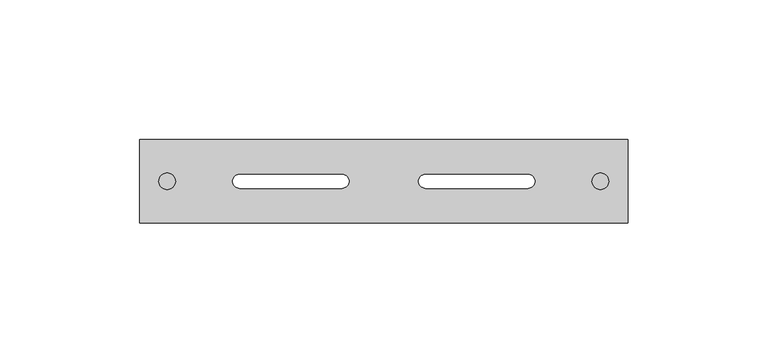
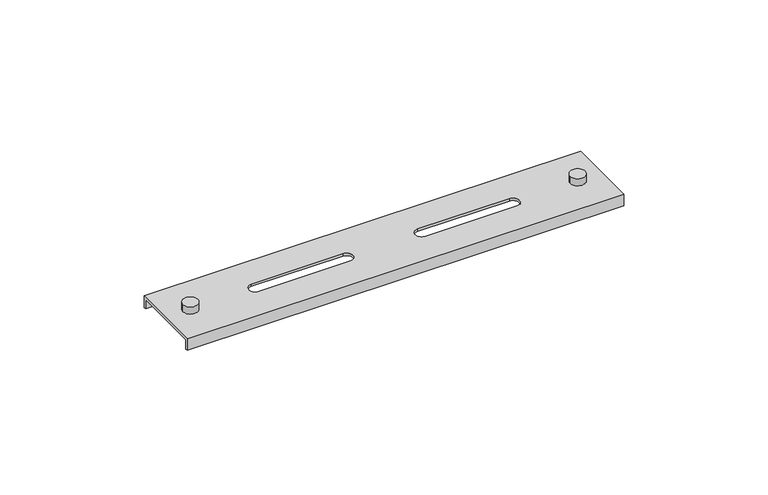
"""IFC4 building model written with IfcOpenShell, lengths in millimetres: cable carrier fitting geometry, CCT_Hyperline_FBTR_BAR_Подвес_для_оптического_лотка : Подвес для оптического лотка."""

from ifc_helpers import new_model, si_unit, point, frame, frame_2d, origin, place, context, project, spatial, polyline, circle_curve, trimmed, segment, composite_curve, outline, extrude, source, transform, mapped, element, save
from ifc_brep_helpers import plane_surface, revolved_surface, advanced_brep


def cable_carrier_fitting_2b42971a(model_context):
    return source(origin(), model_context, "Body", "SolidModel", [
        extrude(outline(composite_curve([segment(trimmed(circle_curve(frame_2d((-77.6286976, 0.0)), 3.0), [point((-74.6286976, 0.0))], [point((-80.6286976, 0.0))], False, "CARTESIAN"), True, "CONTINUOUS"), segment(trimmed(circle_curve(frame_2d((-77.6286976, 0.0)), 3.0), [point((-80.6286976, 0.0))], [point((-74.6286976, 0.0))], False, "CARTESIAN"), True, "CONTINUOUS")], self_intersect=False)), frame((0.0, 0.0, 100.0), z_axis=(0.0, 0.0, 1.0), x_axis=(1.0, 0.0, 0.0)), (0.0, 0.0, 1.0), 3.0),
        extrude(outline(composite_curve([segment(trimmed(circle_curve(frame_2d((77.6286976, 0.0)), 3.0), [point((74.6286976, 0.0))], [point((80.6286976, 0.0))], False, "CARTESIAN"), True, "CONTINUOUS"), segment(trimmed(circle_curve(frame_2d((77.6286976, 0.0)), 3.0), [point((80.6286976, 0.0))], [point((74.6286976, 0.0))], False, "CARTESIAN"), True, "CONTINUOUS")], self_intersect=False)), frame((0.0, 0.0, 100.0), z_axis=(0.0, 0.0, 1.0), x_axis=(1.0, 0.0, 0.0)), (0.0, 0.0, 1.0), 3.0),
        advanced_brep(
        [(-87.5, -15.0, 100.0), (-87.5, 15.0, 100.0), (-87.5, 15.0, 95.0), (-87.5, 14.0, 95.0), (-87.5, 14.0, 99.0), (-87.5, -14.0, 99.0), (-87.5, -14.0, 95.0), (-87.5, -15.0, 95.0), (87.5, -15.0, 100.0), (87.5, 15.0, 100.0), (-51.6666667, 2.5, 100.0), (-15.0, 2.5, 100.0), (-15.0, -2.5, 100.0), (-51.6666667, -2.5, 100.0), (15.0, 2.5, 100.0), (51.6666667, 2.5, 100.0), (51.6666667, -2.5, 100.0), (15.0, -2.5, 100.0), (87.5, 14.0, 99.0), (87.5, -14.0, 99.0), (-15.0, 2.5, 99.0), (-51.6666667, 2.5, 99.0), (-51.6666667, -2.5, 99.0), (-15.0, -2.5, 99.0), (51.6666667, 2.5, 99.0), (15.0, 2.5, 99.0), (15.0, -2.5, 99.0), (51.6666667, -2.5, 99.0), (87.5, -14.0, 95.0), (87.5, -15.0, 95.0), (87.5, 14.0, 95.0), (87.5, 15.0, 95.0)],
        [
            (0, 1),
            (1, 2),
            (2, 3),
            (3, 4),
            (4, 5),
            (5, 6),
            (6, 7),
            (7, 0),
            (0, 8),
            (8, 9),
            (9, 1),
            (10, 11),
            (11, 12, circle_curve(frame((-15.0, 0.0, 100.0), z_axis=(0.0, 0.0, -1.0), x_axis=(1.0, 0.0, 0.0)), 2.5)),
            (12, 13),
            (13, 10, circle_curve(frame((-51.6666667, 0.0, 100.0), z_axis=(0.0, 0.0, -1.0), x_axis=(1.0, 0.0, 0.0)), 2.5)),
            (14, 15),
            (15, 16, circle_curve(frame((51.6666667, 0.0, 100.0), z_axis=(0.0, 0.0, -1.0), x_axis=(1.0, 0.0, 0.0)), 2.5)),
            (16, 17),
            (17, 14, circle_curve(frame((15.0, 0.0, 100.0), z_axis=(0.0, 0.0, -1.0), x_axis=(1.0, 0.0, 0.0)), 2.5)),
            (4, 18),
            (18, 19),
            (19, 5),
            (20, 21),
            (21, 22, circle_curve(frame((-51.6666667, 0.0, 99.0), z_axis=(0.0, 0.0, 1.0), x_axis=(1.0, 0.0, 0.0)), 2.5)),
            (22, 23),
            (23, 20, circle_curve(frame((-15.0, 0.0, 99.0), z_axis=(0.0, 0.0, 1.0), x_axis=(1.0, 0.0, 0.0)), 2.5)),
            (24, 25),
            (25, 26, circle_curve(frame((15.0, 0.0, 99.0), z_axis=(0.0, 0.0, 1.0), x_axis=(1.0, 0.0, 0.0)), 2.5)),
            (26, 27),
            (27, 24, circle_curve(frame((51.6666667, 0.0, 99.0), z_axis=(0.0, 0.0, 1.0), x_axis=(1.0, 0.0, 0.0)), 2.5)),
            (19, 28),
            (28, 6),
            (28, 29),
            (29, 7),
            (29, 8),
            (18, 30),
            (30, 31),
            (31, 9),
            (31, 2),
            (30, 3),
            (10, 21),
            (20, 11),
            (13, 22),
            (12, 23),
            (14, 25),
            (24, 15),
            (17, 26),
            (16, 27),
        ],
        [
            plane_surface(frame((-87.5, -60.0, 24.0), z_axis=(-1.0, 0.0, 0.0), x_axis=(0.0, 0.0, 1.0))),
            plane_surface(frame((-87.5, -15.0, 100.0), z_axis=(0.0, 0.0, 1.0), x_axis=(1.0, 0.0, 0.0))),
            plane_surface(frame((-87.5, 14.0, 99.0), z_axis=(0.0, 0.0, -1.0), x_axis=(1.0, 0.0, 0.0))),
            plane_surface(frame((-87.5, -14.0, 99.0), z_axis=(0.0, 1.0, 0.0), x_axis=(1.0, 0.0, 0.0))),
            plane_surface(frame((-87.5, -14.0, 95.0), z_axis=(0.0, 0.0, -1.0), x_axis=(1.0, 0.0, 0.0))),
            plane_surface(frame((-87.5, -15.0, 95.0), z_axis=(0.0, -1.0, 0.0), x_axis=(1.0, 0.0, 0.0))),
            plane_surface(frame((87.5, -60.0, 24.0), z_axis=(1.0, 0.0, 0.0), x_axis=(0.0, 0.0, 1.0))),
            plane_surface(frame((-87.5, 15.0, 100.0), z_axis=(0.0, 1.0, 0.0), x_axis=(1.0, 0.0, 0.0))),
            plane_surface(frame((-87.5, 15.0, 95.0), z_axis=(0.0, 0.0, -1.0), x_axis=(1.0, 0.0, 0.0))),
            plane_surface(frame((-87.5, 14.0, 95.0), z_axis=(0.0, -1.0, 0.0), x_axis=(1.0, 0.0, 0.0))),
            plane_surface(frame((-15.0, 2.5, 100.0), z_axis=(0.0, -1.0, 0.0), x_axis=(0.0, 0.0, -1.0))),
            revolved_surface(polyline([(-49.1666667, 0.0, 100.0), (-49.1666667, 0.0, 99.0)]), (-51.6666667, 0.0, 99.0), (0.0, 0.0, 1.0)),
            plane_surface(frame((-51.6666667, -2.5, 100.0), z_axis=(0.0, 1.0, 0.0), x_axis=(0.0, 0.0, -1.0))),
            revolved_surface(polyline([(-12.5, 0.0, 100.0), (-12.5, 0.0, 99.0)]), (-15.0, 0.0, 99.0), (0.0, 0.0, 1.0)),
            plane_surface(frame((51.6666667, 2.5, 100.0), z_axis=(0.0, -1.0, 0.0), x_axis=(0.0, 0.0, -1.0))),
            revolved_surface(polyline([(17.5, 0.0, 100.0), (17.5, 0.0, 99.0)]), (15.0, 0.0, 99.0), (0.0, 0.0, 1.0)),
            plane_surface(frame((15.0, -2.5, 100.0), z_axis=(0.0, 1.0, 0.0), x_axis=(0.0, 0.0, -1.0))),
            revolved_surface(polyline([(54.1666667, 0.0, 100.0), (54.1666667, 0.0, 99.0)]), (51.6666667, 0.0, 99.0), (0.0, 0.0, 1.0)),
        ],
        [
            (0, [[1, 2, 3, 4, 5, 6, 7, 8]]),
            (1, [[-1, 9, 10, 11], [12, 13, 14, 15], [16, 17, 18, 19]]),
            (2, [[-5, 20, 21, 22], [23, 24, 25, 26], [27, 28, 29, 30]]),
            (3, [[-6, -22, 31, 32]]),
            (4, [[-7, -32, 33, 34]]),
            (5, [[-8, -34, 35, -9]]),
            (6, [[-10, -35, -33, -31, -21, 36, 37, 38]]),
            (7, [[-2, -11, -38, 39]]),
            (8, [[-3, -39, -37, 40]]),
            (9, [[-4, -40, -36, -20]]),
            (10, [[41, -23, 42, -12]]),
            (11, [[-41, -15, 43, -24]]),
            (12, [[-43, -14, 44, -25]]),
            (13, [[-42, -26, -44, -13]]),
            (14, [[45, -27, 46, -16]]),
            (15, [[-45, -19, 47, -28]]),
            (16, [[-47, -18, 48, -29]]),
            (17, [[-46, -30, -48, -17]]),
        ],
    ),
    ])


if __name__ == "__main__":
    model = new_model("IFC4")
    model_context = context("Model", 3, world=origin())
    ifc_project = project(units=[si_unit("LENGTHUNIT", "METRE", prefix="MILLI")], contexts=[model_context])
    site = spatial("IfcSite", under=ifc_project)
    building = spatial("IfcBuilding", under=site)
    placement = place(None, origin())
    cable_carrier_fitting_shape = cable_carrier_fitting_2b42971a(model_context)
    element("IfcCableCarrierFitting", 1, ObjectType="CCT_Hyperline_FBTR_BAR_Подвес_для_оптического_лотка : Подвес для оптического лотка", at=placement, inside=building, context=model_context, shape_type="MappedRepresentation", body=[
        mapped(cable_carrier_fitting_shape, transform((0.0, 0.0, 0.0), x_axis=(1.0, 0.0, 0.0), y_axis=(0.0, 1.0, 0.0), z_axis=(0.0, 0.0, 1.0))),
    ])
    save(model, "model.ifc")
